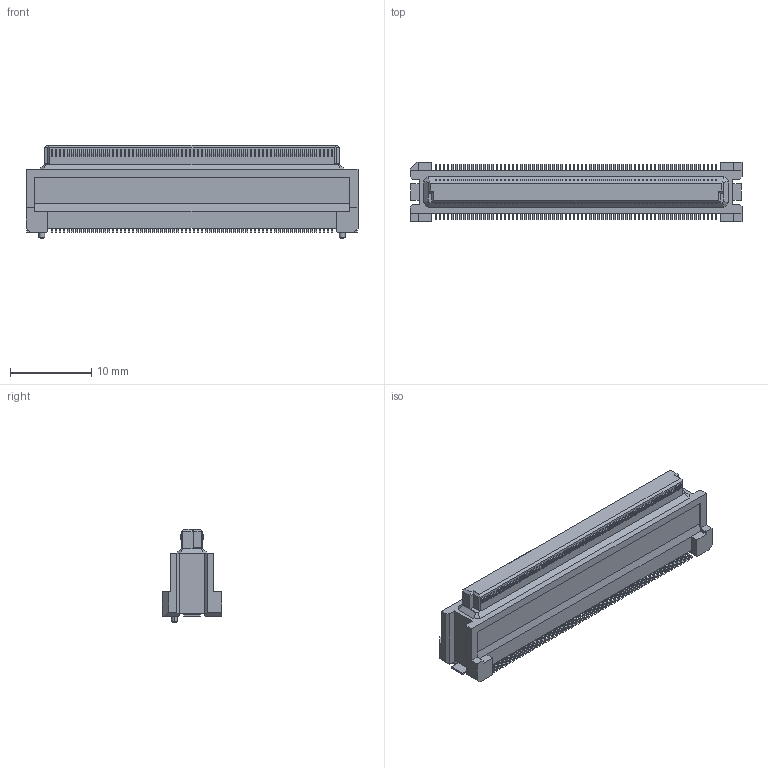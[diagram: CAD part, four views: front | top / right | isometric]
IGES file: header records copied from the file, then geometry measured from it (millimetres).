
Start section: Elysium IGES Interface
Global section: file name: C:\Users\1354\Desktop\DY11-140FS-2.igs; native system: CoCreate Modeling 17.0B  09-Oct-2010; preprocessor: CoCreate IGES_3D V2.2; author: Unknown; organization: Unknown; date: 20170908.105830; units: millimetre
Bounding box: 40.9 x 7.3 x 11.5 mm (x, y, z)
Volume: 1684.1 mm3; surface area: 1657.2 mm2
Topology: 1 solids, 1 shells, 1986 faces, 5473 edges, 3634 vertices
Faces by surface type: bspline 1986
